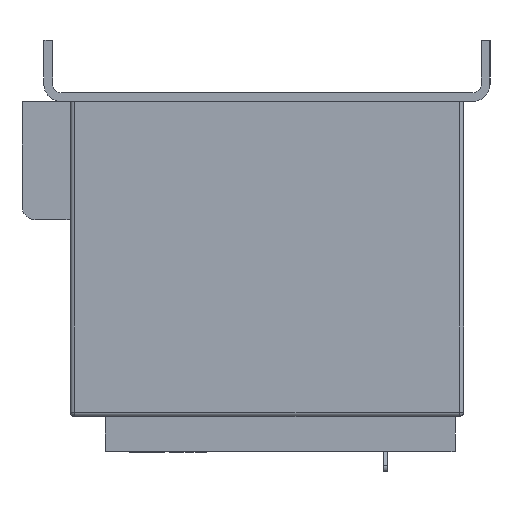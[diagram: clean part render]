
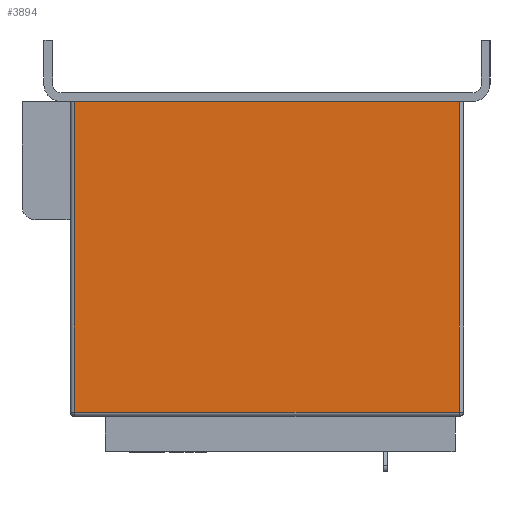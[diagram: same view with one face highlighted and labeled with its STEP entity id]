
A CAD part, left-side view. The second image highlights one B-rep face of the part: STEP entity #3894.
In plain terms, the highlighted planar face has unit normal (-1, 0, 0).
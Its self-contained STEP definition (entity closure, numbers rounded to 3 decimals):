
#416 = DIRECTION ( 'NONE',  ( 0., -1., 0. ) ) ;
#611 = VECTOR ( 'NONE', #8580, 1000. ) ;
#978 = ORIENTED_EDGE ( 'NONE', *, *, #1483, .T. ) ;
#1329 = AXIS2_PLACEMENT_3D ( 'NONE', #2102, #8014, #1501 ) ;
#1381 = EDGE_CURVE ( 'NONE', #2421, #7408, #6204, .T. ) ;
#1403 = PLANE ( 'NONE',  #1329 ) ;
#1483 = EDGE_CURVE ( 'NONE', #9356, #2421, #9614, .T. ) ;
#1501 = DIRECTION ( 'NONE',  ( 0., 1., 0. ) ) ;
#1619 = VECTOR ( 'NONE', #5812, 1000. ) ;
#1837 = CARTESIAN_POINT ( 'NONE',  ( -46., 45., -71. ) ) ;
#2102 = CARTESIAN_POINT ( 'NONE',  ( -46., 45., -72. ) ) ;
#2383 = ORIENTED_EDGE ( 'NONE', *, *, #1381, .T. ) ;
#2421 = VERTEX_POINT ( 'NONE', #8132 ) ;
#2545 = CARTESIAN_POINT ( 'NONE',  ( -46., 45., 0. ) ) ;
#2686 = DIRECTION ( 'NONE',  ( 0., 0., 1. ) ) ;
#2812 = LINE ( 'NONE', #5496, #611 ) ;
#3066 = EDGE_CURVE ( 'NONE', #7408, #5125, #2812, .T. ) ;
#3580 = VECTOR ( 'NONE', #2686, 1000. ) ;
#3894 = ADVANCED_FACE ( 'NONE', ( #5668 ), #1403, .F. ) ;
#4040 = CARTESIAN_POINT ( 'NONE',  ( -46., -44., -71. ) ) ;
#4182 = VECTOR ( 'NONE', #416, 1000. ) ;
#5053 = ORIENTED_EDGE ( 'NONE', *, *, #3066, .T. ) ;
#5125 = VERTEX_POINT ( 'NONE', #5203 ) ;
#5203 = CARTESIAN_POINT ( 'NONE',  ( -46., 44., -71. ) ) ;
#5496 = CARTESIAN_POINT ( 'NONE',  ( -46., 44., -72. ) ) ;
#5668 = FACE_OUTER_BOUND ( 'NONE', #8792, .T. ) ;
#5689 = ORIENTED_EDGE ( 'NONE', *, *, #6673, .T. ) ;
#5812 = DIRECTION ( 'NONE',  ( 0., 1., 0. ) ) ;
#5941 = LINE ( 'NONE', #1837, #4182 ) ;
#6204 = LINE ( 'NONE', #2545, #1619 ) ;
#6553 = CARTESIAN_POINT ( 'NONE',  ( -46., -44., -72. ) ) ;
#6673 = EDGE_CURVE ( 'NONE', #5125, #9356, #5941, .T. ) ;
#7408 = VERTEX_POINT ( 'NONE', #8721 ) ;
#8014 = DIRECTION ( 'NONE',  ( 1., 0., 0. ) ) ;
#8132 = CARTESIAN_POINT ( 'NONE',  ( -46., -44., 0. ) ) ;
#8580 = DIRECTION ( 'NONE',  ( 0., 0., -1. ) ) ;
#8721 = CARTESIAN_POINT ( 'NONE',  ( -46., 44., 0. ) ) ;
#8792 = EDGE_LOOP ( 'NONE', ( #2383, #5053, #5689, #978 ) ) ;
#9356 = VERTEX_POINT ( 'NONE', #4040 ) ;
#9614 = LINE ( 'NONE', #6553, #3580 ) ;
